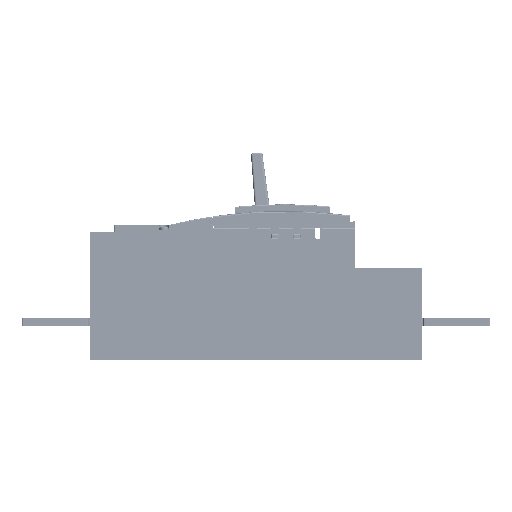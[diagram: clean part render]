
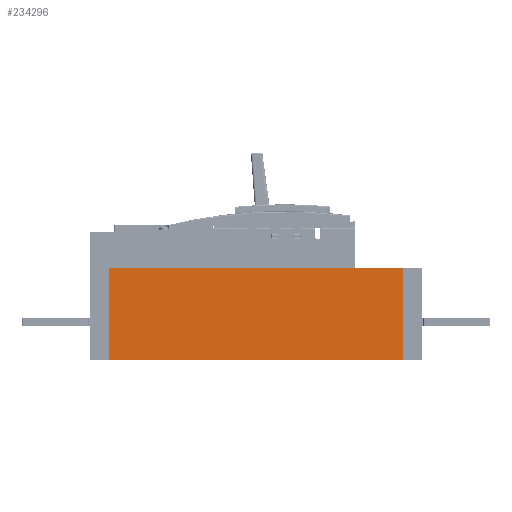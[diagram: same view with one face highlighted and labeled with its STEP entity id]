
A CAD part, left-side view. The second image highlights one B-rep face of the part: STEP entity #234296.
In plain terms, the highlighted planar face has unit normal (-1, 0, 0).
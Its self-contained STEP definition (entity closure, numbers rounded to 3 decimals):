
#67968 = FACE_OUTER_BOUND ( 'NONE', #234300, .T. ) ;
#68010 = DIRECTION ( 'NONE',  ( 0., 0., -1. ) ) ;
#68011 = DIRECTION ( 'NONE',  ( 1., 0., 0. ) ) ;
#68012 = CARTESIAN_POINT ( 'NONE',  ( -128.283, 66.423, 95. ) ) ;
#68013 = AXIS2_PLACEMENT_3D ( 'NONE', #68012, #68011, #68010 ) ;
#68014 = PLANE ( 'NONE',  #68013 ) ;
#68043 = DIRECTION ( 'NONE',  ( 0., 0., -1. ) ) ;
#68044 = VECTOR ( 'NONE', #68043, 1000. ) ;
#68045 = CARTESIAN_POINT ( 'NONE',  ( -128.283, 376.423, 95. ) ) ;
#68046 = LINE ( 'NONE', #68045, #68044 ) ;
#68941 = DIRECTION ( 'NONE',  ( 0., 0., -1. ) ) ;
#68942 = VECTOR ( 'NONE', #68941, 1000. ) ;
#68943 = CARTESIAN_POINT ( 'NONE',  ( -128.283, 66.423, 95. ) ) ;
#68944 = LINE ( 'NONE', #68943, #68942 ) ;
#69425 = CARTESIAN_POINT ( 'NONE',  ( -128.283, 66.423, -1.5 ) ) ;
#69583 = CARTESIAN_POINT ( 'NONE',  ( -128.283, 376.423, -1.5 ) ) ;
#69595 = DIRECTION ( 'NONE',  ( 0., -1., 0. ) ) ;
#69596 = VECTOR ( 'NONE', #69595, 1000. ) ;
#69597 = CARTESIAN_POINT ( 'NONE',  ( -128.283, 66.423, -1.5 ) ) ;
#69598 = LINE ( 'NONE', #69597, #69596 ) ;
#72703 = CARTESIAN_POINT ( 'NONE',  ( -128.283, 66.423, 95. ) ) ;
#74208 = CARTESIAN_POINT ( 'NONE',  ( -128.283, 376.423, 95. ) ) ;
#74666 = DIRECTION ( 'NONE',  ( 0., -1., 0. ) ) ;
#74668 = VECTOR ( 'NONE', #74666, 1000. ) ;
#74670 = CARTESIAN_POINT ( 'NONE',  ( -128.283, 66.423, 95. ) ) ;
#74673 = LINE ( 'NONE', #74670, #74668 ) ;
#234040 = ORIENTED_EDGE ( 'NONE', *, *, #234312, .T. ) ;
#234267 = ORIENTED_EDGE ( 'NONE', *, *, #235072, .T. ) ;
#234270 = ORIENTED_EDGE ( 'NONE', *, *, #234720, .F. ) ;
#234296 = ADVANCED_FACE ( 'NONE', ( #67968 ), #68014, .F. ) ;
#234300 = EDGE_LOOP ( 'NONE', ( #234040, #234267, #234270, #234734 ) ) ;
#234312 = EDGE_CURVE ( 'NONE', #236984, #235077, #68046, .T. ) ;
#234720 = EDGE_CURVE ( 'NONE', #236529, #234979, #68944, .T. ) ;
#234734 = ORIENTED_EDGE ( 'NONE', *, *, #237043, .F. ) ;
#234979 = VERTEX_POINT ( 'NONE', #69425 ) ;
#235072 = EDGE_CURVE ( 'NONE', #235077, #234979, #69598, .T. ) ;
#235077 = VERTEX_POINT ( 'NONE', #69583 ) ;
#236529 = VERTEX_POINT ( 'NONE', #72703 ) ;
#236984 = VERTEX_POINT ( 'NONE', #74208 ) ;
#237043 = EDGE_CURVE ( 'NONE', #236984, #236529, #74673, .T. ) ;
